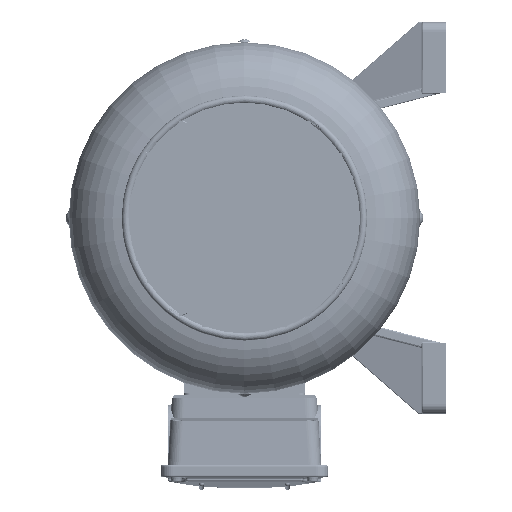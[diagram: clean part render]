
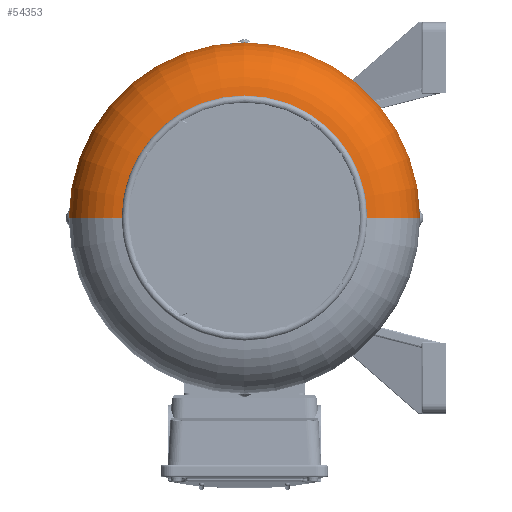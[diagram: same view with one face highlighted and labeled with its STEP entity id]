
A CAD part, left-side view. The second image highlights one B-rep face of the part: STEP entity #54353.
In plain terms, the highlighted toroidal (fillet/blend) face has major radius 116.5 mm and minor radius 57.5 mm.
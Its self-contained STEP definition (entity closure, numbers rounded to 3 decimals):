
#1888 = EDGE_LOOP ( 'NONE', ( #44595, #139798, #28851, #154846 ) ) ;
#6337 = DIRECTION ( 'NONE',  ( 0., 0., 1. ) ) ;
#7094 = CIRCLE ( 'NONE', #46493, 57.5 ) ;
#8405 = DIRECTION ( 'NONE',  ( -1., 0., 0. ) ) ;
#16488 = AXIS2_PLACEMENT_3D ( 'NONE', #157957, #82139, #6337 ) ;
#18405 = DIRECTION ( 'NONE',  ( 0., 1., 0. ) ) ;
#24717 = CIRCLE ( 'NONE', #105418, 57.5 ) ;
#26895 = VERTEX_POINT ( 'NONE', #27384 ) ;
#27384 = CARTESIAN_POINT ( 'NONE',  ( 304.941, 0., 121.5 ) ) ;
#28851 = ORIENTED_EDGE ( 'NONE', *, *, #148061, .T. ) ;
#30576 = CIRCLE ( 'NONE', #124008, 121.5 ) ;
#40452 = TOROIDAL_SURFACE ( 'NONE', #90637, 116.5, 57.5 ) ;
#42228 = CIRCLE ( 'NONE', #16488, 174. ) ;
#43346 = CARTESIAN_POINT ( 'NONE',  ( 304.941, 0., -121.5 ) ) ;
#44595 = ORIENTED_EDGE ( 'NONE', *, *, #53795, .F. ) ;
#46493 = AXIS2_PLACEMENT_3D ( 'NONE', #70723, #159181, #83356 ) ;
#53795 = EDGE_CURVE ( 'NONE', #117178, #70462, #24717, .T. ) ;
#54353 = ADVANCED_FACE ( 'NONE', ( #137451 ), #40452, .T. ) ;
#55073 = EDGE_CURVE ( 'NONE', #70462, #120298, #42228, .T. ) ;
#64741 = CARTESIAN_POINT ( 'NONE',  ( 247.658, 0., -174. ) ) ;
#70462 = VERTEX_POINT ( 'NONE', #64741 ) ;
#70723 = CARTESIAN_POINT ( 'NONE',  ( 247.658, 0., 116.5 ) ) ;
#82139 = DIRECTION ( 'NONE',  ( -1., 0., 0. ) ) ;
#83356 = DIRECTION ( 'NONE',  ( 0., 0., -1. ) ) ;
#84201 = CARTESIAN_POINT ( 'NONE',  ( 304.941, 0., 0. ) ) ;
#90637 = AXIS2_PLACEMENT_3D ( 'NONE', #117847, #156024, #92921 ) ;
#92921 = DIRECTION ( 'NONE',  ( 0., 0., 1. ) ) ;
#94180 = CARTESIAN_POINT ( 'NONE',  ( 247.658, 0., -116.5 ) ) ;
#96937 = DIRECTION ( 'NONE',  ( 0., 0., 1. ) ) ;
#105418 = AXIS2_PLACEMENT_3D ( 'NONE', #94180, #18405, #106893 ) ;
#106546 = EDGE_CURVE ( 'NONE', #117178, #26895, #30576, .T. ) ;
#106893 = DIRECTION ( 'NONE',  ( 0., 0., 1. ) ) ;
#117178 = VERTEX_POINT ( 'NONE', #43346 ) ;
#117847 = CARTESIAN_POINT ( 'NONE',  ( 247.658, 0., 0. ) ) ;
#120298 = VERTEX_POINT ( 'NONE', #122207 ) ;
#122207 = CARTESIAN_POINT ( 'NONE',  ( 247.658, 0., 174. ) ) ;
#124008 = AXIS2_PLACEMENT_3D ( 'NONE', #84201, #8405, #96937 ) ;
#137451 = FACE_OUTER_BOUND ( 'NONE', #1888, .T. ) ;
#139798 = ORIENTED_EDGE ( 'NONE', *, *, #106546, .T. ) ;
#148061 = EDGE_CURVE ( 'NONE', #26895, #120298, #7094, .T. ) ;
#154846 = ORIENTED_EDGE ( 'NONE', *, *, #55073, .F. ) ;
#156024 = DIRECTION ( 'NONE',  ( -1., 0., 0. ) ) ;
#157957 = CARTESIAN_POINT ( 'NONE',  ( 247.658, 0., 0. ) ) ;
#159181 = DIRECTION ( 'NONE',  ( 0., -1., 0. ) ) ;
